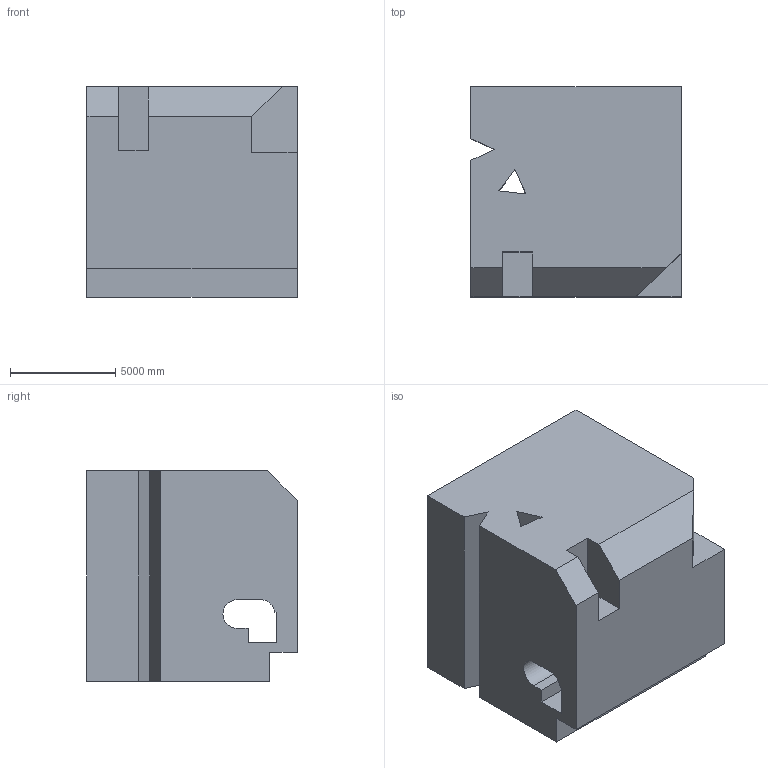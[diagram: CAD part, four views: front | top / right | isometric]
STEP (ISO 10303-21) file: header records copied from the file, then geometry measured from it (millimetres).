
FILE_DESCRIPTION (( 'STEP AP203' ), '1' );
FILE_NAME ('1877.STEP', '2022-08-19T13:54:13', ( 'user' ), ( '' ), 'SwSTEP 2.0', 'SolidWorks 2021', '' );
FILE_SCHEMA (( 'CONFIG_CONTROL_DESIGN' ));
Length unit declared in the file: centimetre
Products named in the file (1): 1877
Bounding box: 10000 x 10000 x 10000 mm (x, y, z)
Volume: 896697456260.1 mm3; surface area: 746749873.3 mm2
Topology: 1 solids, 1 shells, 36 faces, 96 edges, 64 vertices
Faces by surface type: plane 30, cylinder 6
Entity records: 1197 total; most frequent: CARTESIAN_POINT 197, ORIENTED_EDGE 192, DIRECTION 182, EDGE_CURVE 96, LINE 84, VECTOR 84, VERTEX_POINT 64, AXIS2_PLACEMENT_3D 49
